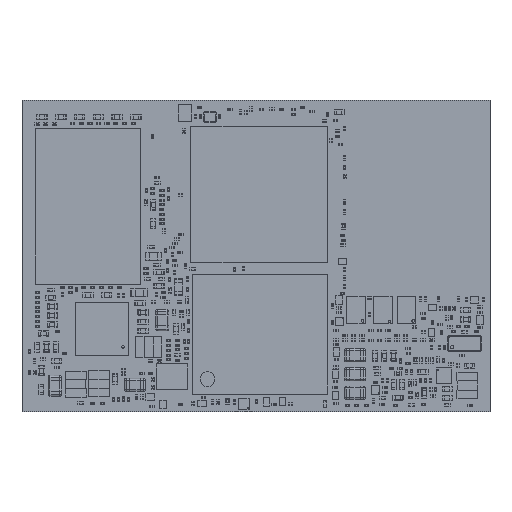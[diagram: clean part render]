
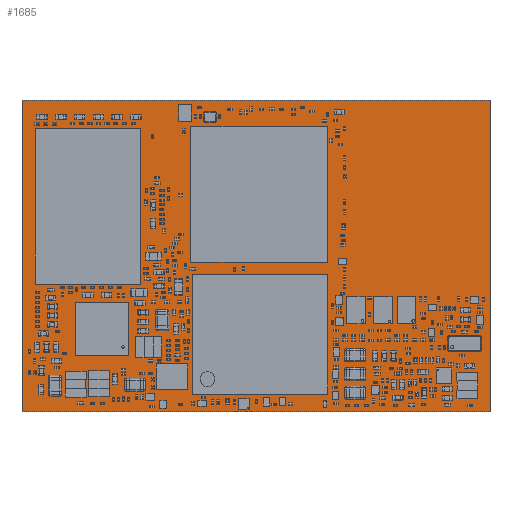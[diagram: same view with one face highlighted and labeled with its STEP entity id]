
A CAD part, top view. The second image highlights one B-rep face of the part: STEP entity #1685.
In plain terms, the highlighted planar face has unit normal (0, 0, 1).
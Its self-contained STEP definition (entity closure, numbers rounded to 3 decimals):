
#1556 = VERTEX_POINT('',#1557);
#1557 = CARTESIAN_POINT('',(0.,0.,1.263));
#1563 = EDGE_CURVE('',#1556,#1564,#1566,.T.);
#1564 = VERTEX_POINT('',#1565);
#1565 = CARTESIAN_POINT('',(0.,29.997,1.263));
#1566 = LINE('',#1567,#1568);
#1567 = CARTESIAN_POINT('',(0.,0.,1.263));
#1568 = VECTOR('',#1569,1.);
#1569 = DIRECTION('',(0.,1.,0.));
#1594 = EDGE_CURVE('',#1564,#1595,#1597,.T.);
#1595 = VERTEX_POINT('',#1596);
#1596 = CARTESIAN_POINT('',(45.,29.997,1.263));
#1597 = LINE('',#1598,#1599);
#1598 = CARTESIAN_POINT('',(0.,29.997,1.263));
#1599 = VECTOR('',#1600,1.);
#1600 = DIRECTION('',(1.,0.,0.));
#1625 = EDGE_CURVE('',#1595,#1626,#1628,.T.);
#1626 = VERTEX_POINT('',#1627);
#1627 = CARTESIAN_POINT('',(45.,0.,1.263));
#1628 = LINE('',#1629,#1630);
#1629 = CARTESIAN_POINT('',(45.,29.997,1.263));
#1630 = VECTOR('',#1631,1.);
#1631 = DIRECTION('',(0.,-1.,0.));
#1656 = EDGE_CURVE('',#1626,#1556,#1657,.T.);
#1657 = LINE('',#1658,#1659);
#1658 = CARTESIAN_POINT('',(45.,0.,1.263));
#1659 = VECTOR('',#1660,1.);
#1660 = DIRECTION('',(-1.,0.,0.));
#1685 = ADVANCED_FACE('',(#1686),#1692,.F.);
#1686 = FACE_BOUND('',#1687,.F.);
#1687 = EDGE_LOOP('',(#1688,#1689,#1690,#1691));
#1688 = ORIENTED_EDGE('',*,*,#1563,.T.);
#1689 = ORIENTED_EDGE('',*,*,#1594,.T.);
#1690 = ORIENTED_EDGE('',*,*,#1625,.T.);
#1691 = ORIENTED_EDGE('',*,*,#1656,.T.);
#1692 = PLANE('',#1693);
#1693 = AXIS2_PLACEMENT_3D('',#1694,#1695,#1696);
#1694 = CARTESIAN_POINT('',(22.5,14.999,1.263));
#1695 = DIRECTION('',(-0.,-0.,-1.));
#1696 = DIRECTION('',(-1.,0.,0.));
